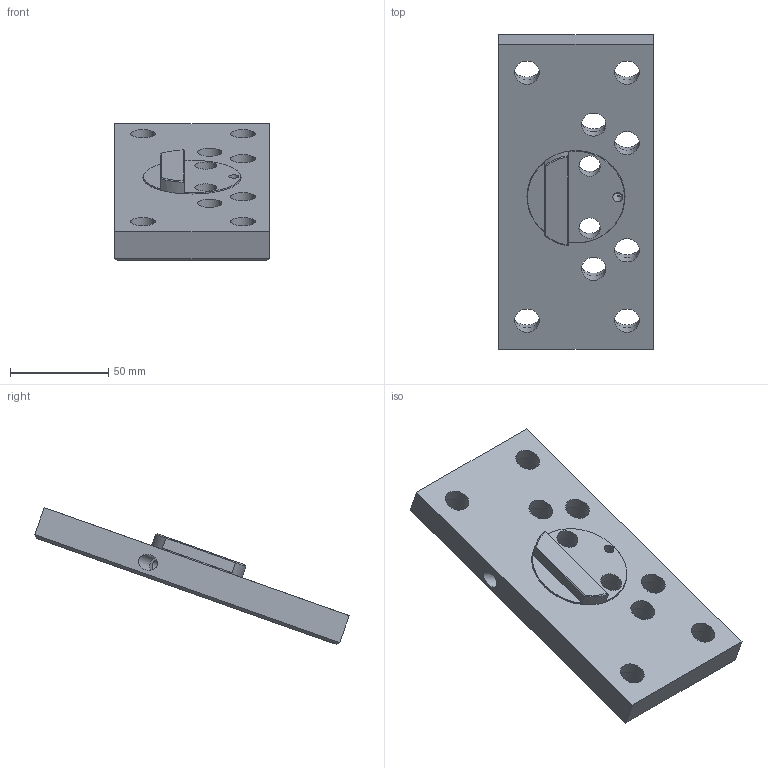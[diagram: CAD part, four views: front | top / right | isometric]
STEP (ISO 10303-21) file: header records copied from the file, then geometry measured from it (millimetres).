
FILE_DESCRIPTION (( 'STEP AP214' ), '1' );
FILE_NAME ('6921884072042.STEP', '2022-10-26T12:31:37', ( '' ), ( '' ), 'SwSTEP 2.0', 'SolidWorks 2021', '' );
FILE_SCHEMA (( 'AUTOMOTIVE_DESIGN' ));
Length unit declared in the file: millimetre
Products named in the file (3): 6921884072042; 3D-6921884073000; 3D-6921884072000
Assembly tree (2 placements, depth 2):
  6921884072042
    3D-6921884073000
    3D-6921884072000
Bounding box: 79 x 160.37 x 69.68 mm (x, y, z)
Volume: 182654.9 mm3; surface area: 46317.8 mm2
Topology: 2 solids, 2 shells, 96 faces, 227 edges, 147 vertices
Faces by surface type: plane 42, cylinder 41, cone 12, torus 1
Full cylindrical faces by diameter (mm): 2 x2, 5 x2, 5.1 x1, 8 x1, 11 x2, 12.5 x8, 16 x8, 17 x2, 48.9 x1, 49.5 x1, 50 x1, 56 x3
Entity records: 2992 total; most frequent: CARTESIAN_POINT 734, DIRECTION 444, ORIENTED_EDGE 338, AXIS2_PLACEMENT_3D 192, EDGE_LOOP 176, EDGE_CURVE 169, VERTEX_POINT 131, FACE_OUTER_BOUND 129
